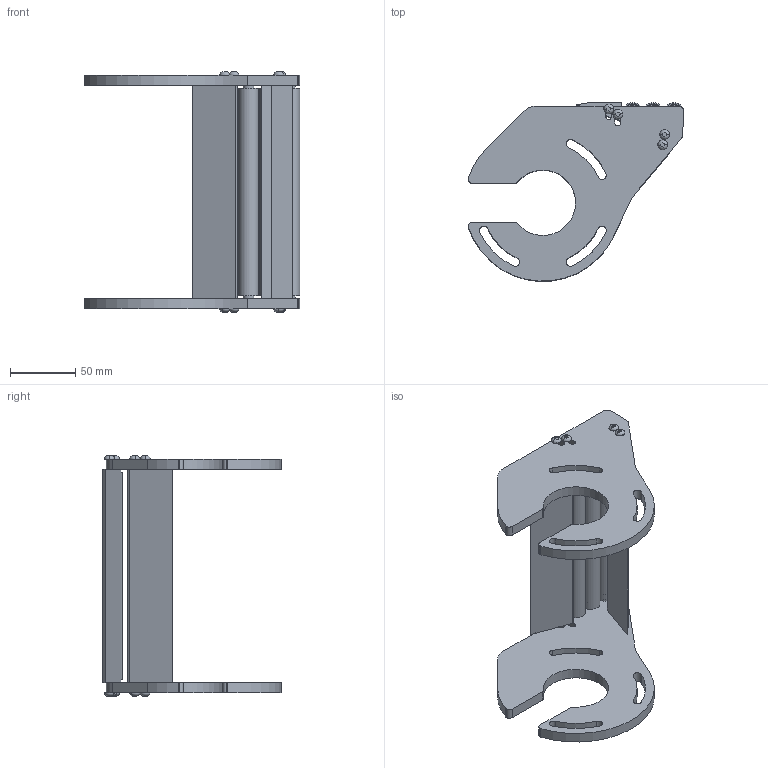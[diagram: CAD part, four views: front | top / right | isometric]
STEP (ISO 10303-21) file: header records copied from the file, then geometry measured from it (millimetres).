
FILE_DESCRIPTION (( 'STEP AP214' ), '1' );
FILE_NAME ('CAB 6 TGRI 1.STEP', '2024-02-27T08:03:42', ( '' ), ( '' ), 'SwSTEP 2.0', 'SolidWorks 2022', '' );
FILE_SCHEMA (( 'AUTOMOTIVE_DESIGN' ));
Length unit declared in the file: millimetre
Products named in the file (10): CAB 6 TGRI 1; PSTI CAB 1 Symétrie; GR CAB 6; ROULEMENT TGRI CAB FLEXTOO; ENTRETOISE TGRI CAB-F2-R-HEF; Galet + roulement CAB 6; PT-F2 - CAB 6; PSTI CAB 1; TBHC 4X16; AXE TGRI CAB 6
Assembly tree (27 placements, depth 3):
  CAB 6 TGRI 1
    PSTI CAB 1 Symétrie
    PSTI CAB 1
    PT-F2 - CAB 6  x2
    AXE TGRI CAB 6  x3
    ENTRETOISE TGRI CAB-F2-R-HEF  x6
    Galet + roulement CAB 6  x3
      GR CAB 6
      ROULEMENT TGRI CAB FLEXTOO
    TBHC 4X16  x8
Bounding box: 164.87 x 136.6 x 183.78 mm (x, y, z)
Volume: 344976.7 mm3; surface area: 144824.1 mm2
Topology: 30 solids, 30 shells, 1508 faces, 3246 edges, 1828 vertices
Faces by surface type: cone 984, cylinder 262, plane 198, torus 64
Entity records: 11662 total; most frequent: DIRECTION 2075, CARTESIAN_POINT 1934, ORIENTED_EDGE 1746, EDGE_CURVE 873, AXIS2_PLACEMENT_3D 823, VERTEX_POINT 538, CIRCLE 430, LINE 429
